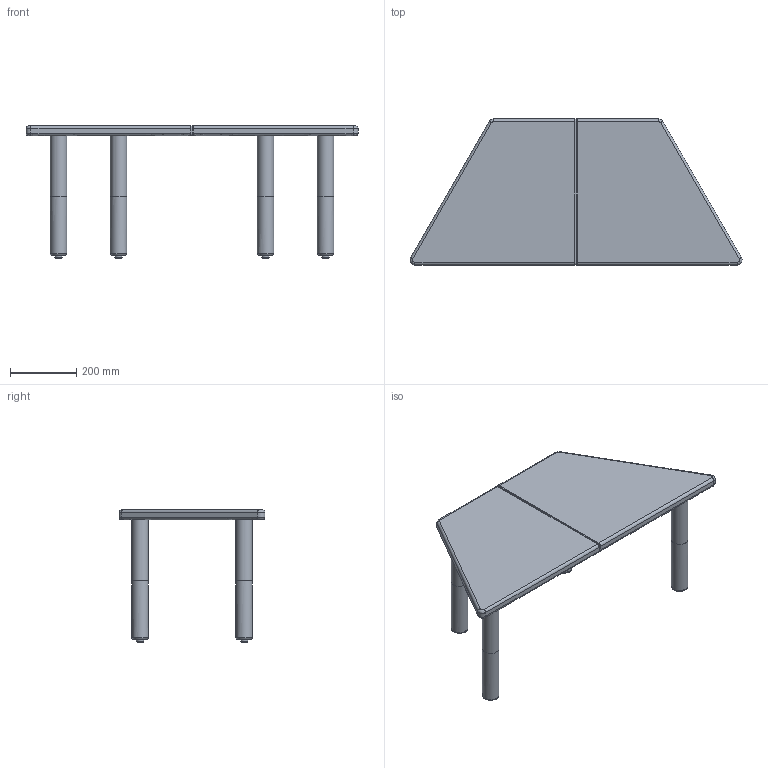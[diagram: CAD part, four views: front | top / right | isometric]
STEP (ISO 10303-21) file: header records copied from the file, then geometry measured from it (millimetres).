
FILE_DESCRIPTION(/* description */ (''),/* implementation_level */ '2;1');
FILE_NAME(/* name */ 'KINOSH~1',/* time_stamp */ '2021-12-10T15:47:01+09:00',/* author */ (''),/* organization */ (''),/* preprocessor_version */ 'ST-DEVELOPER v16.5',/* originating_system */ '',/* authorisation */ '');
FILE_SCHEMA (('AUTOMOTIVE_DESIGN'));
Length unit declared in the file: millimetre
Products named in the file (1): Document
Bounding box: 1004.98 x 441.93 x 400 mm (x, y, z)
Volume: 13005603.5 mm3; surface area: 988680.2 mm2
Topology: 9 solids, 9 shells, 172 faces, 306 edges, 184 vertices
Faces by surface type: bspline 100, plane 72
Entity records: 5446 total; most frequent: CARTESIAN_POINT 3370, ORIENTED_EDGE 612, EDGE_CURVE 306, EDGE_LOOP 212, VERTEX_POINT 184, ADVANCED_FACE 172, FACE_OUTER_BOUND 172, DIRECTION 76
